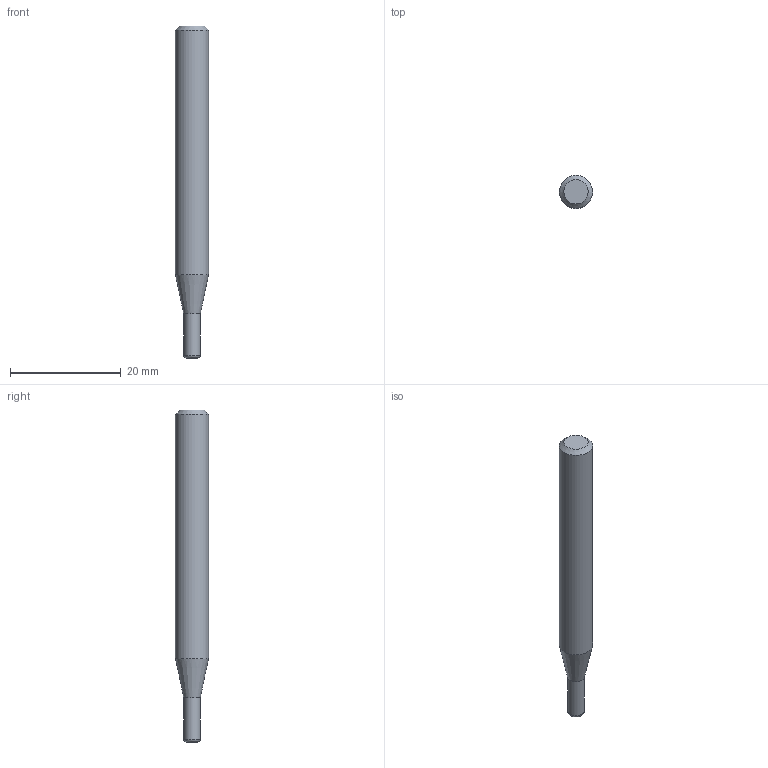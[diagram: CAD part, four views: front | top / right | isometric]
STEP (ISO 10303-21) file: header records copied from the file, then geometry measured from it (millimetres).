
FILE_DESCRIPTION((''),'2;1');
FILE_NAME('C:\Users\nsx150\AppData\Local\Temp\Mastercam 2021\0KY4AY0TVG\TEMP.step','2021-10-21T14:41:44',(''),(''),'STEP Write','Mastercam 2021 ... CNC Software, Inc.','');
FILE_SCHEMA(('AUTOMOTIVE_DESIGN'));
Length unit declared in the file: millimetre
Products named in the file (1): None
Bounding box: 6 x 6 x 60 mm (x, y, z)
Volume: 1437.7 mm3; surface area: 1062.2 mm2
Topology: 2 solids, 2 shells, 9 faces, 12 edges, 7 vertices
Faces by surface type: plane 4, cylinder 2, cone 2, torus 1
Full cylindrical faces by diameter (mm): 3 x1, 6 x1
Entity records: 211 total; most frequent: DIRECTION 36, CARTESIAN_POINT 25, AXIS2_PLACEMENT_3D 18, ORIENTED_EDGE 14, EDGE_LOOP 14, STYLED_ITEM 12, ADVANCED_FACE 9, FACE_BOUND 8
